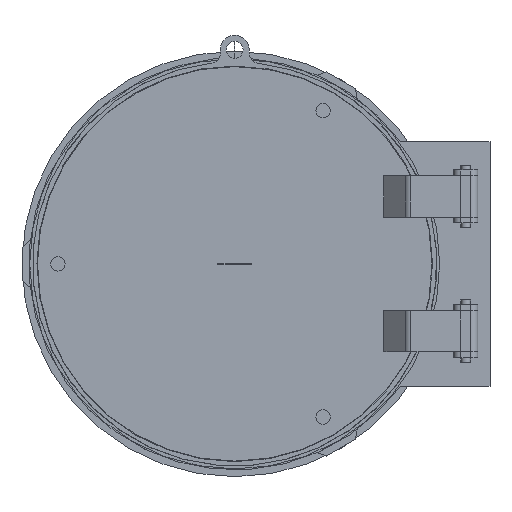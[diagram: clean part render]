
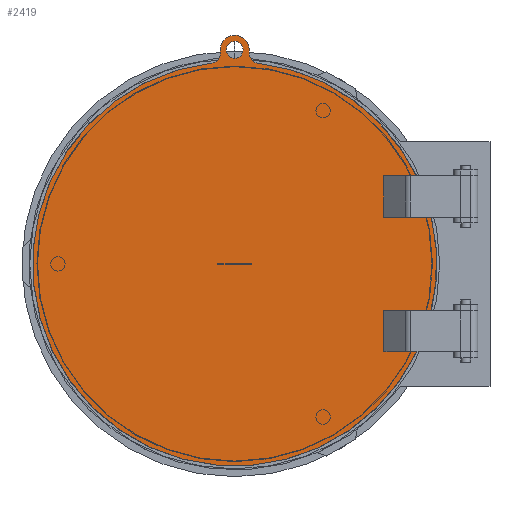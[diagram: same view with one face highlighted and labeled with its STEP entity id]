
A CAD part, top view. The second image highlights one B-rep face of the part: STEP entity #2419.
In plain terms, the highlighted planar face has unit normal (0, 0, 1).
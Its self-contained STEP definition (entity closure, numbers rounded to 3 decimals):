
#1531=CARTESIAN_POINT('',(0.,445.,20.));
#1532=DIRECTION('',(0.,0.,-1.));
#1533=DIRECTION('',(1.,0.,0.));
#1534=AXIS2_PLACEMENT_3D('',#1531,#1532,#1533);
#1539=CARTESIAN_POINT('',(0.,445.,20.));
#1540=DIRECTION('',(0.,0.,-1.));
#1541=DIRECTION('',(-1.,0.,0.));
#1542=AXIS2_PLACEMENT_3D('',#1539,#1540,#1541);
#1547=DIRECTION('',(-1.,0.,0.));
#1548=VECTOR('',#1547,98.645);
#1549=CARTESIAN_POINT('',(408.645,-97.,20.));
#1550=LINE('',#1549,#1548);
#1554=DIRECTION('',(0.,-1.,0.));
#1555=VECTOR('',#1554,86.);
#1556=CARTESIAN_POINT('',(310.,-97.,20.));
#1557=LINE('',#1556,#1555);
#1561=DIRECTION('',(-1.,0.,0.));
#1562=VECTOR('',#1561,68.036);
#1563=CARTESIAN_POINT('',(378.036,-183.,20.));
#1564=LINE('',#1563,#1562);
#1568=CARTESIAN_POINT('',(0.,0.,20.));
#1569=DIRECTION('',(0.,0.,1.));
#1570=DIRECTION('',(-0.114,0.994,0.));
#1571=AXIS2_PLACEMENT_3D('',#1568,#1569,#1570);
#1576=CARTESIAN_POINT('',(-50.,437.15,20.));
#1577=DIRECTION('',(0.,0.,-1.));
#1578=DIRECTION('',(1.,0.,0.));
#1579=AXIS2_PLACEMENT_3D('',#1576,#1577,#1578);
#1584=DIRECTION('',(0.,-1.,0.));
#1585=VECTOR('',#1584,7.85);
#1586=CARTESIAN_POINT('',(-30.,445.,20.));
#1587=LINE('',#1586,#1585);
#1591=CARTESIAN_POINT('',(0.,445.,20.));
#1592=DIRECTION('',(0.,0.,1.));
#1593=DIRECTION('',(1.,0.,0.));
#1594=AXIS2_PLACEMENT_3D('',#1591,#1592,#1593);
#1599=DIRECTION('',(0.,1.,0.));
#1600=VECTOR('',#1599,7.85);
#1601=CARTESIAN_POINT('',(30.,437.15,20.));
#1602=LINE('',#1601,#1600);
#1606=CARTESIAN_POINT('',(50.,437.15,20.));
#1607=DIRECTION('',(0.,0.,-1.));
#1608=DIRECTION('',(-0.114,-0.994,0.));
#1609=AXIS2_PLACEMENT_3D('',#1606,#1607,#1608);
#1614=CARTESIAN_POINT('',(0.,0.,20.));
#1615=DIRECTION('',(0.,0.,1.));
#1616=DIRECTION('',(0.9,0.436,0.));
#1617=AXIS2_PLACEMENT_3D('',#1614,#1615,#1616);
#1622=DIRECTION('',(-1.,0.,0.));
#1623=VECTOR('',#1622,68.036);
#1624=CARTESIAN_POINT('',(378.036,183.,20.));
#1625=LINE('',#1624,#1623);
#1629=DIRECTION('',(0.,1.,0.));
#1630=VECTOR('',#1629,86.);
#1631=CARTESIAN_POINT('',(310.,97.,20.));
#1632=LINE('',#1631,#1630);
#1636=DIRECTION('',(-1.,0.,0.));
#1637=VECTOR('',#1636,98.645);
#1638=CARTESIAN_POINT('',(408.645,97.,20.));
#1639=LINE('',#1638,#1637);
#1643=CARTESIAN_POINT('',(0.,0.,20.));
#1644=DIRECTION('',(0.,0.,1.));
#1645=DIRECTION('',(0.973,-0.231,0.));
#1646=AXIS2_PLACEMENT_3D('',#1643,#1644,#1645);
#1651=DIRECTION('',(-1.,0.,0.));
#1652=VECTOR('',#1651,70.);
#1653=CARTESIAN_POINT('',(35.,-0.5,20.));
#1654=LINE('',#1653,#1652);
#1658=DIRECTION('',(0.,1.,0.));
#1659=VECTOR('',#1658,1.);
#1660=CARTESIAN_POINT('',(35.,-0.5,20.));
#1661=LINE('',#1660,#1659);
#1665=DIRECTION('',(-1.,0.,0.));
#1666=VECTOR('',#1665,70.);
#1667=CARTESIAN_POINT('',(35.,0.5,20.));
#1668=LINE('',#1667,#1666);
#1672=DIRECTION('',(0.,1.,0.));
#1673=VECTOR('',#1672,1.);
#1674=CARTESIAN_POINT('',(-35.,-0.5,20.));
#1675=LINE('',#1674,#1673);
#2162=CARTESIAN_POINT('',(17.5,445.,20.));
#2163=CARTESIAN_POINT('',(-17.5,445.,20.));
#2164=VERTEX_POINT('',#2162);
#2165=VERTEX_POINT('',#2163);
#2166=CARTESIAN_POINT('',(-30.,445.,20.));
#2167=CARTESIAN_POINT('',(-30.,437.15,20.));
#2168=VERTEX_POINT('',#2166);
#2169=VERTEX_POINT('',#2167);
#2170=CARTESIAN_POINT('',(-47.727,417.279,20.));
#2171=VERTEX_POINT('',#2170);
#2172=CARTESIAN_POINT('',(47.727,417.279,20.));
#2173=CARTESIAN_POINT('',(30.,437.15,20.));
#2174=VERTEX_POINT('',#2172);
#2175=VERTEX_POINT('',#2173);
#2176=CARTESIAN_POINT('',(30.,445.,20.));
#2177=VERTEX_POINT('',#2176);
#2198=CARTESIAN_POINT('',(408.645,97.,20.));
#2199=VERTEX_POINT('',#2198);
#2200=CARTESIAN_POINT('',(378.036,183.,20.));
#2201=VERTEX_POINT('',#2200);
#2218=CARTESIAN_POINT('',(310.,97.,20.));
#2219=VERTEX_POINT('',#2218);
#2220=CARTESIAN_POINT('',(310.,183.,20.));
#2221=VERTEX_POINT('',#2220);
#2226=CARTESIAN_POINT('',(408.645,-97.,20.));
#2227=VERTEX_POINT('',#2226);
#2228=CARTESIAN_POINT('',(378.036,-183.,20.));
#2229=VERTEX_POINT('',#2228);
#2230=CARTESIAN_POINT('',(310.,-97.,20.));
#2231=VERTEX_POINT('',#2230);
#2232=CARTESIAN_POINT('',(310.,-183.,20.));
#2233=VERTEX_POINT('',#2232);
#2266=CARTESIAN_POINT('',(35.,-0.5,20.));
#2267=CARTESIAN_POINT('',(-35.,-0.5,20.));
#2268=VERTEX_POINT('',#2266);
#2269=VERTEX_POINT('',#2267);
#2270=CARTESIAN_POINT('',(35.,0.5,20.));
#2271=CARTESIAN_POINT('',(-35.,0.5,20.));
#2272=VERTEX_POINT('',#2270);
#2273=VERTEX_POINT('',#2271);
#2371=CARTESIAN_POINT('',(0.,0.,20.));
#2372=DIRECTION('',(0.,0.,1.));
#2373=DIRECTION('',(1.,0.,0.));
#2374=AXIS2_PLACEMENT_3D('',#2371,#2372,#2373);
#2375=PLANE('',#2374);
#2377=ORIENTED_EDGE('',*,*,#2376,.T.);
#2379=ORIENTED_EDGE('',*,*,#2378,.T.);
#2381=ORIENTED_EDGE('',*,*,#2380,.F.);
#2383=ORIENTED_EDGE('',*,*,#2382,.F.);
#2385=ORIENTED_EDGE('',*,*,#2384,.F.);
#2387=ORIENTED_EDGE('',*,*,#2386,.F.);
#2389=ORIENTED_EDGE('',*,*,#2388,.F.);
#2391=ORIENTED_EDGE('',*,*,#2390,.F.);
#2393=ORIENTED_EDGE('',*,*,#2392,.F.);
#2395=ORIENTED_EDGE('',*,*,#2394,.F.);
#2396=ORIENTED_EDGE('',*,*,#2362,.T.);
#2397=ORIENTED_EDGE('',*,*,#2283,.F.);
#2398=ORIENTED_EDGE('',*,*,#2316,.F.);
#2400=ORIENTED_EDGE('',*,*,#2399,.F.);
#2401=EDGE_LOOP('',(#2377,#2379,#2381,#2383,#2385,#2387,#2389,#2391,#2393,#2395,
#2396,#2397,#2398,#2400));
#2402=FACE_OUTER_BOUND('',#2401,.F.);
#2404=ORIENTED_EDGE('',*,*,#2403,.F.);
#2406=ORIENTED_EDGE('',*,*,#2405,.F.);
#2407=EDGE_LOOP('',(#2404,#2406));
#2408=FACE_BOUND('',#2407,.F.);
#2410=ORIENTED_EDGE('',*,*,#2409,.F.);
#2412=ORIENTED_EDGE('',*,*,#2411,.T.);
#2414=ORIENTED_EDGE('',*,*,#2413,.T.);
#2416=ORIENTED_EDGE('',*,*,#2415,.F.);
#2417=EDGE_LOOP('',(#2410,#2412,#2414,#2416));
#2418=FACE_BOUND('',#2417,.F.);
#1535=CIRCLE('',#1534,17.5);
#1543=CIRCLE('',#1542,17.5);
#1572=CIRCLE('',#1571,420.);
#1580=CIRCLE('',#1579,20.);
#1595=CIRCLE('',#1594,30.);
#1610=CIRCLE('',#1609,20.);
#1618=CIRCLE('',#1617,420.);
#1647=CIRCLE('',#1646,420.);
#2283=EDGE_CURVE('',#2219,#2221,#1632,.T.);
#2316=EDGE_CURVE('',#2199,#2219,#1639,.T.);
#2362=EDGE_CURVE('',#2201,#2221,#1625,.T.);
#2376=EDGE_CURVE('',#2227,#2231,#1550,.T.);
#2378=EDGE_CURVE('',#2231,#2233,#1557,.T.);
#2380=EDGE_CURVE('',#2229,#2233,#1564,.T.);
#2382=EDGE_CURVE('',#2171,#2229,#1572,.T.);
#2384=EDGE_CURVE('',#2169,#2171,#1580,.T.);
#2386=EDGE_CURVE('',#2168,#2169,#1587,.T.);
#2388=EDGE_CURVE('',#2177,#2168,#1595,.T.);
#2390=EDGE_CURVE('',#2175,#2177,#1602,.T.);
#2392=EDGE_CURVE('',#2174,#2175,#1610,.T.);
#2394=EDGE_CURVE('',#2201,#2174,#1618,.T.);
#2399=EDGE_CURVE('',#2227,#2199,#1647,.T.);
#2403=EDGE_CURVE('',#2164,#2165,#1535,.T.);
#2405=EDGE_CURVE('',#2165,#2164,#1543,.T.);
#2409=EDGE_CURVE('',#2268,#2269,#1654,.T.);
#2411=EDGE_CURVE('',#2268,#2272,#1661,.T.);
#2413=EDGE_CURVE('',#2272,#2273,#1668,.T.);
#2415=EDGE_CURVE('',#2269,#2273,#1675,.T.);
#2419=ADVANCED_FACE('',(#2402,#2408,#2418),#2375,.T.);
